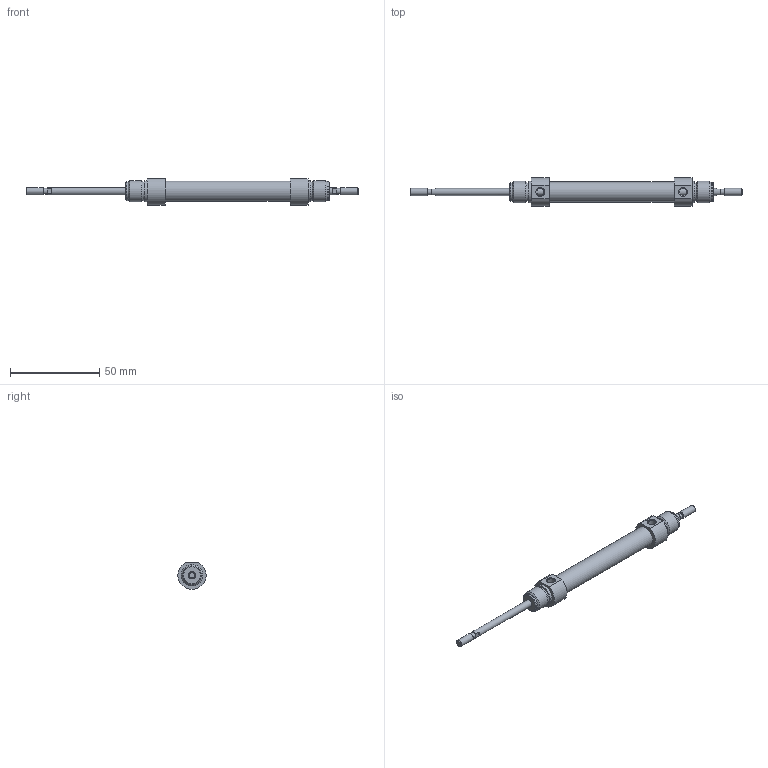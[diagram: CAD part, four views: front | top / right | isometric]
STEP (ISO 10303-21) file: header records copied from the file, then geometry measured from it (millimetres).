
FILE_DESCRIPTION( ( 'STEP AP203' ), '1' );
FILE_NAME( '//expscmdclustefs.cadenas.external/client_exchange/iodir/jobs/output/wkb68274395_no0/STEP/M101-010-0040-M__0__2_03.stp', ' ', ( ' ' ), ( ' ' ), 'PSStep 15.0.47', 'PARTsolutions', ' ' );
FILE_SCHEMA( ( 'CONFIG_CONTROL_DESIGN' ) );
Length unit declared in the file: millimetre
Products named in the file (3): M101-010-0040-M [0]; HI_M101-010-0040-M-[0]-z; HI_M101-010-0040-M-[0]-k
Assembly tree (2 placements, depth 2):
  M101-010-0040-M [0]
    HI_M101-010-0040-M-[0]-z
    HI_M101-010-0040-M-[0]-k
Bounding box: 186 x 15.77 x 14.87 mm (x, y, z)
Volume: 11485.1 mm3; surface area: 9960.7 mm2
Topology: 2 solids, 2 shells, 71 faces, 145 edges, 88 vertices
Faces by surface type: plane 32, cylinder 23, cone 14, torus 2
Full cylindrical faces by diameter (mm): 3.141 x2, 4 x6, 4.134 x2, 10 x2, 10.466 x4, 11.3 x1, 12 x4
Entity records: 1838 total; most frequent: CARTESIAN_POINT 358, DIRECTION 312, ORIENTED_EDGE 212, AXIS2_PLACEMENT_3D 140, EDGE_LOOP 120, EDGE_CURVE 106, FACE_OUTER_BOUND 94, VERTEX_POINT 82
